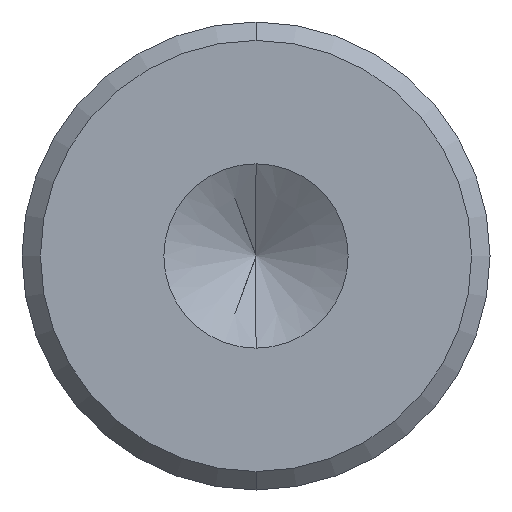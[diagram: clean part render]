
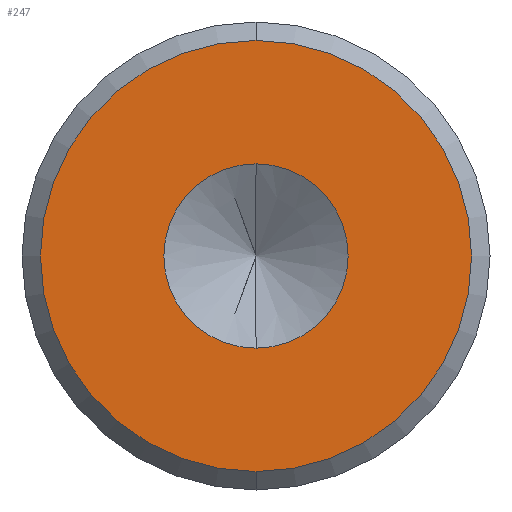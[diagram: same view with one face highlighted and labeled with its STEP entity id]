
A CAD part, front view. The second image highlights one B-rep face of the part: STEP entity #247.
In plain terms, the highlighted planar face has unit normal (0, -1, 0).
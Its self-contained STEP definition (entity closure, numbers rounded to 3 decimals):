
#14 = CIRCLE ( 'NONE', #274, 5.85 ) ;
#19 = DIRECTION ( 'NONE',  ( 0., 1., 0. ) ) ;
#20 = CARTESIAN_POINT ( 'NONE',  ( 0., 0., 2.5 ) ) ;
#34 = VERTEX_POINT ( 'NONE', #285 ) ;
#35 = DIRECTION ( 'NONE',  ( 0., 0., 1. ) ) ;
#43 = CARTESIAN_POINT ( 'NONE',  ( 0., 0., 0. ) ) ;
#48 = CIRCLE ( 'NONE', #361, 2.5 ) ;
#60 = CARTESIAN_POINT ( 'NONE',  ( 0., 0., 0. ) ) ;
#62 = CARTESIAN_POINT ( 'NONE',  ( 0., 0., 0. ) ) ;
#66 = DIRECTION ( 'NONE',  ( 0., 0., 1. ) ) ;
#84 = DIRECTION ( 'NONE',  ( 0., 0., 1. ) ) ;
#93 = AXIS2_PLACEMENT_3D ( 'NONE', #43, #212, #84 ) ;
#110 = EDGE_LOOP ( 'NONE', ( #438, #353 ) ) ;
#115 = CIRCLE ( 'NONE', #524, 2.5 ) ;
#120 = CARTESIAN_POINT ( 'NONE',  ( 0., 0., 0. ) ) ;
#123 = CARTESIAN_POINT ( 'NONE',  ( 0., 0., -2.5 ) ) ;
#125 = AXIS2_PLACEMENT_3D ( 'NONE', #60, #19, #66 ) ;
#136 = EDGE_CURVE ( 'NONE', #406, #34, #14, .T. ) ;
#150 = ORIENTED_EDGE ( 'NONE', *, *, #136, .T. ) ;
#200 = CIRCLE ( 'NONE', #93, 5.85 ) ;
#204 = CARTESIAN_POINT ( 'NONE',  ( 0., 0., 0. ) ) ;
#211 = VERTEX_POINT ( 'NONE', #123 ) ;
#212 = DIRECTION ( 'NONE',  ( 0., -1., 0. ) ) ;
#222 = EDGE_LOOP ( 'NONE', ( #150, #380 ) ) ;
#239 = EDGE_CURVE ( 'NONE', #34, #406, #200, .T. ) ;
#247 = ADVANCED_FACE ( 'NONE', ( #481, #507 ), #520, .F. ) ;
#253 = DIRECTION ( 'NONE',  ( 0., 0., -1. ) ) ;
#274 = AXIS2_PLACEMENT_3D ( 'NONE', #204, #332, #35 ) ;
#285 = CARTESIAN_POINT ( 'NONE',  ( 0., 0., -5.85 ) ) ;
#295 = DIRECTION ( 'NONE',  ( 0., -1., 0. ) ) ;
#332 = DIRECTION ( 'NONE',  ( 0., -1., 0. ) ) ;
#333 = DIRECTION ( 'NONE',  ( 0., 0., -1. ) ) ;
#350 = VERTEX_POINT ( 'NONE', #20 ) ;
#353 = ORIENTED_EDGE ( 'NONE', *, *, #453, .F. ) ;
#361 = AXIS2_PLACEMENT_3D ( 'NONE', #62, #518, #253 ) ;
#380 = ORIENTED_EDGE ( 'NONE', *, *, #239, .T. ) ;
#406 = VERTEX_POINT ( 'NONE', #469 ) ;
#438 = ORIENTED_EDGE ( 'NONE', *, *, #444, .F. ) ;
#444 = EDGE_CURVE ( 'NONE', #211, #350, #48, .T. ) ;
#453 = EDGE_CURVE ( 'NONE', #350, #211, #115, .T. ) ;
#469 = CARTESIAN_POINT ( 'NONE',  ( 0., 0., 5.85 ) ) ;
#481 = FACE_OUTER_BOUND ( 'NONE', #222, .T. ) ;
#507 = FACE_BOUND ( 'NONE', #110, .T. ) ;
#518 = DIRECTION ( 'NONE',  ( 0., -1., 0. ) ) ;
#520 = PLANE ( 'NONE',  #125 ) ;
#524 = AXIS2_PLACEMENT_3D ( 'NONE', #120, #295, #333 ) ;
